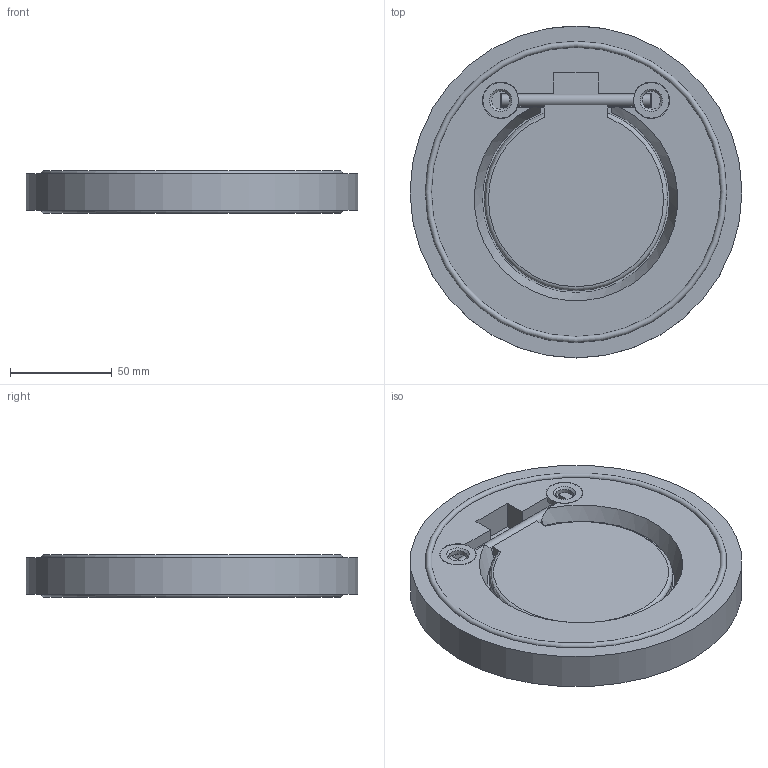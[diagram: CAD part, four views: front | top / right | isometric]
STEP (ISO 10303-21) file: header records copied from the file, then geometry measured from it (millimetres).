
FILE_DESCRIPTION(/* description */ (''),/* implementation_level */ '2;1');
FILE_NAME(/* name */ '944600342.stp',/* time_stamp */ '2024-06-24T09:43:34+02:00',/* author */ ('JJ'),/* organization */ (''),/* preprocessor_version */ 'ST-DEVELOPER v20',/* originating_system */ 'Autodesk Inventor 2025',/* authorisation */ '');
FILE_SCHEMA (('AUTOMOTIVE_DESIGN { 1 0 10303 214 3 1 1 }'));
Length unit declared in the file: millimetre
Products named in the file (1): 944600342
Bounding box: 163 x 163 x 21 mm (x, y, z)
Volume: 293809.2 mm3; surface area: 78079.7 mm2
Topology: 6 solids, 6 shells, 59 faces, 122 edges, 81 vertices
Faces by surface type: plane 35, cylinder 18, cone 3, torus 3
Full cylindrical faces by diameter (mm): 5 x1, 6 x1, 9 x2, 17.5 x2, 68 x1, 70 x1, 78 x1, 84 x1, 90 x1, 142 x2, 148 x2, 163 x1
Entity records: 1760 total; most frequent: CARTESIAN_POINT 328, DIRECTION 284, ORIENTED_EDGE 244, EDGE_CURVE 122, AXIS2_PLACEMENT_3D 110, VERTEX_POINT 81, EDGE_LOOP 75, STYLED_ITEM 65
